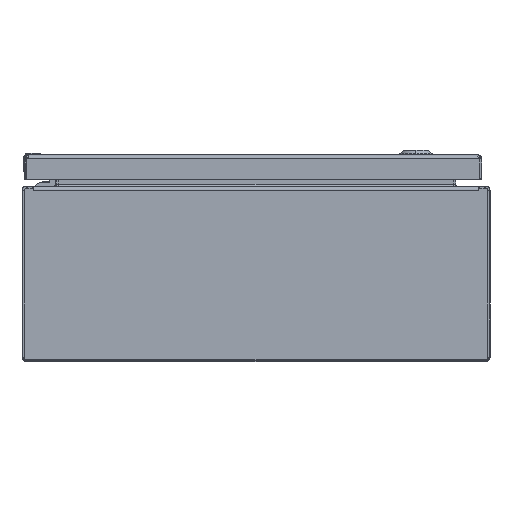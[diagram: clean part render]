
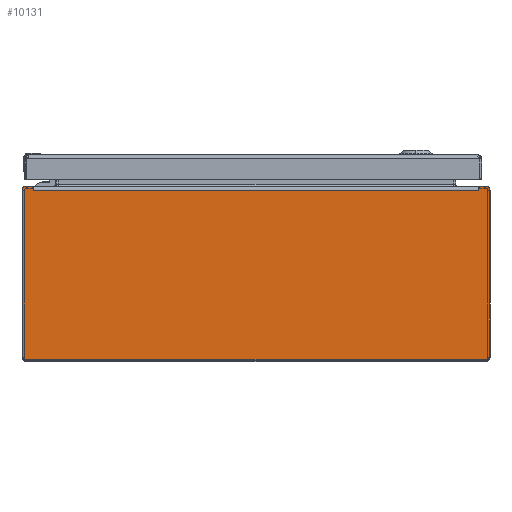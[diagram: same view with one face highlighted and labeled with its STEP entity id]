
A CAD part, front view. The second image highlights one B-rep face of the part: STEP entity #10131.
In plain terms, the highlighted planar face has unit normal (0, -1, 0).
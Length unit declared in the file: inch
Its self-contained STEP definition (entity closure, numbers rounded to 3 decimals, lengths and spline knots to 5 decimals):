
#8922=CARTESIAN_POINT('',(-7.915,0.,2.934));
#8923=DIRECTION('',(0.,-1.,0.));
#8924=DIRECTION('',(0.,0.,1.));
#8925=AXIS2_PLACEMENT_3D('',#8922,#8923,#8924);
#8930=DIRECTION('',(1.,0.,0.));
#8931=VECTOR('',#8930,0.2939);
#8932=CARTESIAN_POINT('',(-7.915,0.,2.994));
#8933=LINE('',#8932,#8931);
#8937=DIRECTION('',(1.,0.,0.));
#8938=VECTOR('',#8937,0.2939);
#8939=CARTESIAN_POINT('',(7.6211,0.,2.994));
#8940=LINE('',#8939,#8938);
#8944=CARTESIAN_POINT('',(7.915,0.,2.934));
#8945=DIRECTION('',(0.,-1.,0.));
#8946=DIRECTION('',(1.,0.,0.));
#8947=AXIS2_PLACEMENT_3D('',#8944,#8945,#8946);
#8952=DIRECTION('',(0.,0.,-1.));
#8953=VECTOR('',#8952,5.765);
#8954=CARTESIAN_POINT('',(7.975,0.,2.934));
#8955=LINE('',#8954,#8953);
#8959=CARTESIAN_POINT('',(7.85,0.,-2.831));
#8960=DIRECTION('',(0.,-1.,0.));
#8961=DIRECTION('',(0.,0.,-1.));
#8962=AXIS2_PLACEMENT_3D('',#8959,#8960,#8961);
#8967=DIRECTION('',(-1.,0.,0.));
#8968=VECTOR('',#8967,15.7);
#8969=CARTESIAN_POINT('',(7.85,0.,-2.956));
#8970=LINE('',#8969,#8968);
#8974=CARTESIAN_POINT('',(-7.85,0.,-2.831));
#8975=DIRECTION('',(0.,-1.,0.));
#8976=DIRECTION('',(-1.,0.,0.));
#8977=AXIS2_PLACEMENT_3D('',#8974,#8975,#8976);
#8982=DIRECTION('',(0.,0.,-1.));
#8983=VECTOR('',#8982,5.765);
#8984=CARTESIAN_POINT('',(-7.975,0.,2.934));
#8985=LINE('',#8984,#8983);
#9052=DIRECTION('',(0.,0.,-1.));
#9053=VECTOR('',#9052,0.125);
#9054=CARTESIAN_POINT('',(7.6211,0.,2.994));
#9055=LINE('',#9054,#9053);
#9640=DIRECTION('',(1.,0.,0.));
#9641=VECTOR('',#9640,15.2422);
#9642=CARTESIAN_POINT('',(-7.6211,0.,2.869));
#9643=LINE('',#9642,#9641);
#9677=DIRECTION('',(0.,0.,1.));
#9678=VECTOR('',#9677,0.125);
#9679=CARTESIAN_POINT('',(-7.6211,0.,2.869));
#9680=LINE('',#9679,#9678);
#9936=CARTESIAN_POINT('',(-7.6211,0.,2.869));
#9937=CARTESIAN_POINT('',(7.6211,0.,2.869));
#9938=VERTEX_POINT('',#9936);
#9939=VERTEX_POINT('',#9937);
#10020=CARTESIAN_POINT('',(-7.6211,0.,2.994));
#10022=VERTEX_POINT('',#10020);
#10024=CARTESIAN_POINT('',(7.6211,0.,2.994));
#10026=VERTEX_POINT('',#10024);
#10068=CARTESIAN_POINT('',(-7.915,0.,2.994));
#10069=CARTESIAN_POINT('',(-7.975,0.,2.934));
#10070=VERTEX_POINT('',#10068);
#10071=VERTEX_POINT('',#10069);
#10076=CARTESIAN_POINT('',(7.975,0.,2.934));
#10077=CARTESIAN_POINT('',(7.915,0.,2.994));
#10078=VERTEX_POINT('',#10076);
#10079=VERTEX_POINT('',#10077);
#10084=CARTESIAN_POINT('',(-7.975,0.,-2.831));
#10085=CARTESIAN_POINT('',(-7.85,0.,-2.956));
#10086=VERTEX_POINT('',#10084);
#10087=VERTEX_POINT('',#10085);
#10092=CARTESIAN_POINT('',(7.85,0.,-2.956));
#10093=CARTESIAN_POINT('',(7.975,0.,-2.831));
#10094=VERTEX_POINT('',#10092);
#10095=VERTEX_POINT('',#10093);
#10100=CARTESIAN_POINT('',(0.,0.,0.));
#10101=DIRECTION('',(0.,-1.,0.));
#10102=DIRECTION('',(-1.,0.,0.));
#10103=AXIS2_PLACEMENT_3D('',#10100,#10101,#10102);
#10104=PLANE('',#10103);
#10106=ORIENTED_EDGE('',*,*,#10105,.F.);
#10108=ORIENTED_EDGE('',*,*,#10107,.T.);
#10110=ORIENTED_EDGE('',*,*,#10109,.F.);
#10112=ORIENTED_EDGE('',*,*,#10111,.T.);
#10114=ORIENTED_EDGE('',*,*,#10113,.F.);
#10116=ORIENTED_EDGE('',*,*,#10115,.T.);
#10118=ORIENTED_EDGE('',*,*,#10117,.F.);
#10120=ORIENTED_EDGE('',*,*,#10119,.T.);
#10122=ORIENTED_EDGE('',*,*,#10121,.F.);
#10124=ORIENTED_EDGE('',*,*,#10123,.T.);
#10126=ORIENTED_EDGE('',*,*,#10125,.F.);
#10128=ORIENTED_EDGE('',*,*,#10127,.F.);
#10129=EDGE_LOOP('',(#10106,#10108,#10110,#10112,#10114,#10116,#10118,#10120,
#10122,#10124,#10126,#10128));
#10130=FACE_OUTER_BOUND('',#10129,.F.);
#8926=CIRCLE('',#8925,0.06);
#8948=CIRCLE('',#8947,0.06);
#8963=CIRCLE('',#8962,0.125);
#8978=CIRCLE('',#8977,0.125);
#10105=EDGE_CURVE('',#10070,#10071,#8926,.T.);
#10107=EDGE_CURVE('',#10070,#10022,#8933,.T.);
#10109=EDGE_CURVE('',#9938,#10022,#9680,.T.);
#10111=EDGE_CURVE('',#9938,#9939,#9643,.T.);
#10113=EDGE_CURVE('',#10026,#9939,#9055,.T.);
#10115=EDGE_CURVE('',#10026,#10079,#8940,.T.);
#10117=EDGE_CURVE('',#10078,#10079,#8948,.T.);
#10119=EDGE_CURVE('',#10078,#10095,#8955,.T.);
#10121=EDGE_CURVE('',#10094,#10095,#8963,.T.);
#10123=EDGE_CURVE('',#10094,#10087,#8970,.T.);
#10125=EDGE_CURVE('',#10086,#10087,#8978,.T.);
#10127=EDGE_CURVE('',#10071,#10086,#8985,.T.);
#10131=ADVANCED_FACE('',(#10130),#10104,.T.);
